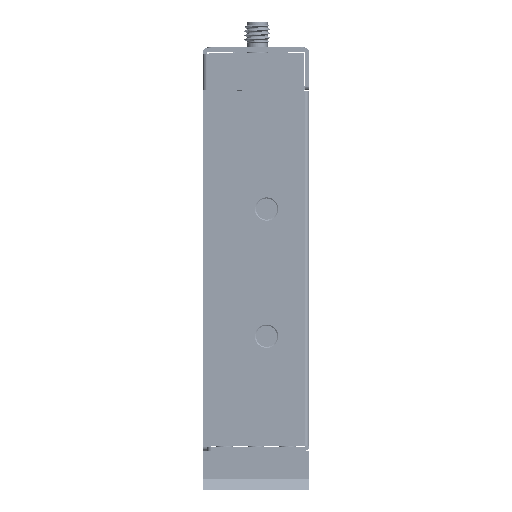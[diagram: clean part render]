
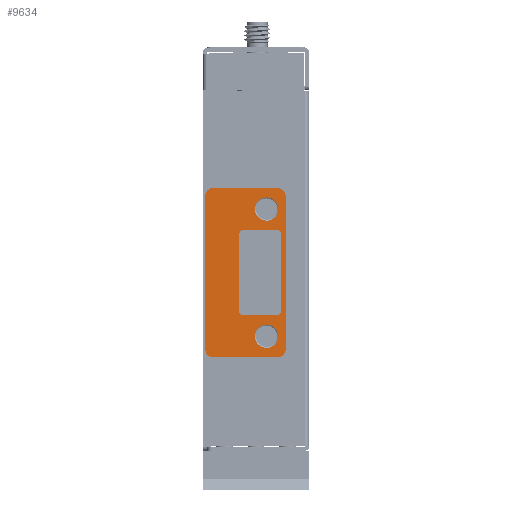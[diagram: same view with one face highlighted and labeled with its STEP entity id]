
A CAD part, front view. The second image highlights one B-rep face of the part: STEP entity #9634.
In plain terms, the highlighted planar face has unit normal (0, -1, 0) as drawn and (0, 0, 1) by its records, which use the part's own axes.
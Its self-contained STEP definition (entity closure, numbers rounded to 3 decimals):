
#4876 = EDGE_LOOP ( 'NONE', ( #39316, #201566, #397314, #746519, #158965, #432797, #329695, #469887 ) ) ;
#8804 = EDGE_CURVE ( 'NONE', #644303, #621204, #552002, .T. ) ;
#9634 = ADVANCED_FACE ( 'NONE', ( #325841, #562770, #494157 ), #203364, .F. ) ;
#31606 = LINE ( 'NONE', #261263, #393594 ) ;
#34950 = DIRECTION ( 'NONE',  ( 0., 0., -1. ) ) ;
#39316 = ORIENTED_EDGE ( 'NONE', *, *, #664285, .T. ) ;
#43404 = ORIENTED_EDGE ( 'NONE', *, *, #155254, .F. ) ;
#49467 = CARTESIAN_POINT ( 'NONE',  ( 37.75, 14.5, 0.8 ) ) ;
#51063 = LINE ( 'NONE', #632690, #608950 ) ;
#67244 = EDGE_CURVE ( 'NONE', #630152, #662738, #51063, .T. ) ;
#85513 = CARTESIAN_POINT ( 'NONE',  ( 38., 19., 0.8 ) ) ;
#89657 = CARTESIAN_POINT ( 'NONE',  ( 2.25, 14.5, 0.8 ) ) ;
#101038 = EDGE_LOOP ( 'NONE', ( #142992, #246612 ) ) ;
#136117 = CIRCLE ( 'NONE', #185193, 2.75 ) ;
#139951 = DIRECTION ( 'NONE',  ( 0., 0., 1. ) ) ;
#142992 = ORIENTED_EDGE ( 'NONE', *, *, #8804, .F. ) ;
#148436 = CARTESIAN_POINT ( 'NONE',  ( 38., 2., 0.8 ) ) ;
#149525 = CIRCLE ( 'NONE', #540410, 2. ) ;
#152711 = AXIS2_PLACEMENT_3D ( 'NONE', #148436, #511481, #213218 ) ;
#154530 = DIRECTION ( 'NONE',  ( -1., 0., 0. ) ) ;
#155254 = EDGE_CURVE ( 'NONE', #314339, #309345, #303764, .T. ) ;
#158965 = ORIENTED_EDGE ( 'NONE', *, *, #238955, .T. ) ;
#168122 = AXIS2_PLACEMENT_3D ( 'NONE', #667888, #139951, #200977 ) ;
#177742 = DIRECTION ( 'NONE',  ( 0., 0., 1. ) ) ;
#182780 = DIRECTION ( 'NONE',  ( 1., 0., 0. ) ) ;
#185193 = AXIS2_PLACEMENT_3D ( 'NONE', #257232, #245984, #307109 ) ;
#200692 = CARTESIAN_POINT ( 'NONE',  ( 2., 17., 0.8 ) ) ;
#200977 = DIRECTION ( 'NONE',  ( -1., 0., 0. ) ) ;
#201566 = ORIENTED_EDGE ( 'NONE', *, *, #67244, .T. ) ;
#203364 = PLANE ( 'NONE',  #676210 ) ;
#213194 = CARTESIAN_POINT ( 'NONE',  ( 0., 2., 0.8 ) ) ;
#213218 = DIRECTION ( 'NONE',  ( 1., 0., 0. ) ) ;
#222194 = AXIS2_PLACEMENT_3D ( 'NONE', #729503, #549599, #545847 ) ;
#238955 = EDGE_CURVE ( 'NONE', #707452, #252166, #724754, .T. ) ;
#245984 = DIRECTION ( 'NONE',  ( 0., 0., 1. ) ) ;
#246612 = ORIENTED_EDGE ( 'NONE', *, *, #588947, .F. ) ;
#252166 = VERTEX_POINT ( 'NONE', #85513 ) ;
#257232 = CARTESIAN_POINT ( 'NONE',  ( 5., 14.5, 0.8 ) ) ;
#261263 = CARTESIAN_POINT ( 'NONE',  ( 0., 2., 0.8 ) ) ;
#273640 = LINE ( 'NONE', #621900, #644279 ) ;
#294125 = EDGE_CURVE ( 'NONE', #683036, #320484, #31606, .T. ) ;
#299606 = VERTEX_POINT ( 'NONE', #517452 ) ;
#303764 = CIRCLE ( 'NONE', #389499, 2.75 ) ;
#304332 = DIRECTION ( 'NONE',  ( 0., 0., 1. ) ) ;
#307109 = DIRECTION ( 'NONE',  ( 1., 0., 0. ) ) ;
#309345 = VERTEX_POINT ( 'NONE', #89657 ) ;
#314339 = VERTEX_POINT ( 'NONE', #705394 ) ;
#320484 = VERTEX_POINT ( 'NONE', #213194 ) ;
#322894 = LINE ( 'NONE', #678646, #636592 ) ;
#325841 = FACE_BOUND ( 'NONE', #742423, .T. ) ;
#329695 = ORIENTED_EDGE ( 'NONE', *, *, #679888, .T. ) ;
#334909 = CARTESIAN_POINT ( 'NONE',  ( 2., 19., 0.8 ) ) ;
#337117 = CARTESIAN_POINT ( 'NONE',  ( 2., 2., 0.8 ) ) ;
#341962 = DIRECTION ( 'NONE',  ( 1., 0., 0. ) ) ;
#362626 = CARTESIAN_POINT ( 'NONE',  ( 35., 14.5, 0.8 ) ) ;
#389499 = AXIS2_PLACEMENT_3D ( 'NONE', #713799, #304332, #483997 ) ;
#393594 = VECTOR ( 'NONE', #670737, 1000. ) ;
#397314 = ORIENTED_EDGE ( 'NONE', *, *, #494128, .T. ) ;
#411249 = VERTEX_POINT ( 'NONE', #334909 ) ;
#420585 = CARTESIAN_POINT ( 'NONE',  ( 40., 17., 0.8 ) ) ;
#432404 = AXIS2_PLACEMENT_3D ( 'NONE', #362626, #707027, #182780 ) ;
#432797 = ORIENTED_EDGE ( 'NONE', *, *, #446094, .T. ) ;
#444382 = DIRECTION ( 'NONE',  ( 0., -1., 0. ) ) ;
#445893 = DIRECTION ( 'NONE',  ( 0., 1., 0. ) ) ;
#446094 = EDGE_CURVE ( 'NONE', #252166, #411249, #322894, .T. ) ;
#467606 = EDGE_CURVE ( 'NONE', #299606, #707452, #273640, .T. ) ;
#469887 = ORIENTED_EDGE ( 'NONE', *, *, #294125, .T. ) ;
#480993 = CIRCLE ( 'NONE', #432404, 2.75 ) ;
#483997 = DIRECTION ( 'NONE',  ( 1., 0., 0. ) ) ;
#494128 = EDGE_CURVE ( 'NONE', #662738, #299606, #555522, .T. ) ;
#494157 = FACE_OUTER_BOUND ( 'NONE', #4876, .T. ) ;
#511481 = DIRECTION ( 'NONE',  ( 0., 0., 1. ) ) ;
#517452 = CARTESIAN_POINT ( 'NONE',  ( 40., 2., 0.8 ) ) ;
#535405 = CARTESIAN_POINT ( 'NONE',  ( 32.25, 14.5, 0.8 ) ) ;
#540410 = AXIS2_PLACEMENT_3D ( 'NONE', #200692, #545055, #556276 ) ;
#545055 = DIRECTION ( 'NONE',  ( 0., 0., 1. ) ) ;
#545847 = DIRECTION ( 'NONE',  ( 1., 0., 0. ) ) ;
#549599 = DIRECTION ( 'NONE',  ( 0., 0., 1. ) ) ;
#552002 = CIRCLE ( 'NONE', #222194, 2.75 ) ;
#555522 = CIRCLE ( 'NONE', #152711, 2. ) ;
#556276 = DIRECTION ( 'NONE',  ( -1., 0., 0. ) ) ;
#557998 = ORIENTED_EDGE ( 'NONE', *, *, #727700, .F. ) ;
#559886 = CARTESIAN_POINT ( 'NONE',  ( 0., 17., 0.8 ) ) ;
#562770 = FACE_BOUND ( 'NONE', #101038, .T. ) ;
#565617 = AXIS2_PLACEMENT_3D ( 'NONE', #701991, #177742, #622863 ) ;
#588947 = EDGE_CURVE ( 'NONE', #621204, #644303, #480993, .T. ) ;
#608950 = VECTOR ( 'NONE', #341962, 1000. ) ;
#621204 = VERTEX_POINT ( 'NONE', #535405 ) ;
#621900 = CARTESIAN_POINT ( 'NONE',  ( 40., 2., 0.8 ) ) ;
#622863 = DIRECTION ( 'NONE',  ( -1., 0., 0. ) ) ;
#630152 = VERTEX_POINT ( 'NONE', #707424 ) ;
#631796 = CARTESIAN_POINT ( 'NONE',  ( 38., 0., 0.8 ) ) ;
#632690 = CARTESIAN_POINT ( 'NONE',  ( 2., 0., 0.8 ) ) ;
#636592 = VECTOR ( 'NONE', #154530, 1000. ) ;
#644279 = VECTOR ( 'NONE', #445893, 1000. ) ;
#644303 = VERTEX_POINT ( 'NONE', #49467 ) ;
#662738 = VERTEX_POINT ( 'NONE', #631796 ) ;
#664285 = EDGE_CURVE ( 'NONE', #320484, #630152, #730197, .T. ) ;
#667888 = CARTESIAN_POINT ( 'NONE',  ( 2., 2., 0.8 ) ) ;
#670737 = DIRECTION ( 'NONE',  ( 0., -1., 0. ) ) ;
#676210 = AXIS2_PLACEMENT_3D ( 'NONE', #337117, #34950, #444382 ) ;
#678646 = CARTESIAN_POINT ( 'NONE',  ( 2., 19., 0.8 ) ) ;
#679888 = EDGE_CURVE ( 'NONE', #411249, #683036, #149525, .T. ) ;
#683036 = VERTEX_POINT ( 'NONE', #559886 ) ;
#701991 = CARTESIAN_POINT ( 'NONE',  ( 38., 17., 0.8 ) ) ;
#705394 = CARTESIAN_POINT ( 'NONE',  ( 7.75, 14.5, 0.8 ) ) ;
#707027 = DIRECTION ( 'NONE',  ( 0., 0., 1. ) ) ;
#707424 = CARTESIAN_POINT ( 'NONE',  ( 2., 0., 0.8 ) ) ;
#707452 = VERTEX_POINT ( 'NONE', #420585 ) ;
#713799 = CARTESIAN_POINT ( 'NONE',  ( 5., 14.5, 0.8 ) ) ;
#724754 = CIRCLE ( 'NONE', #565617, 2. ) ;
#727700 = EDGE_CURVE ( 'NONE', #309345, #314339, #136117, .T. ) ;
#729503 = CARTESIAN_POINT ( 'NONE',  ( 35., 14.5, 0.8 ) ) ;
#730197 = CIRCLE ( 'NONE', #168122, 2. ) ;
#742423 = EDGE_LOOP ( 'NONE', ( #43404, #557998 ) ) ;
#746519 = ORIENTED_EDGE ( 'NONE', *, *, #467606, .T. ) ;
